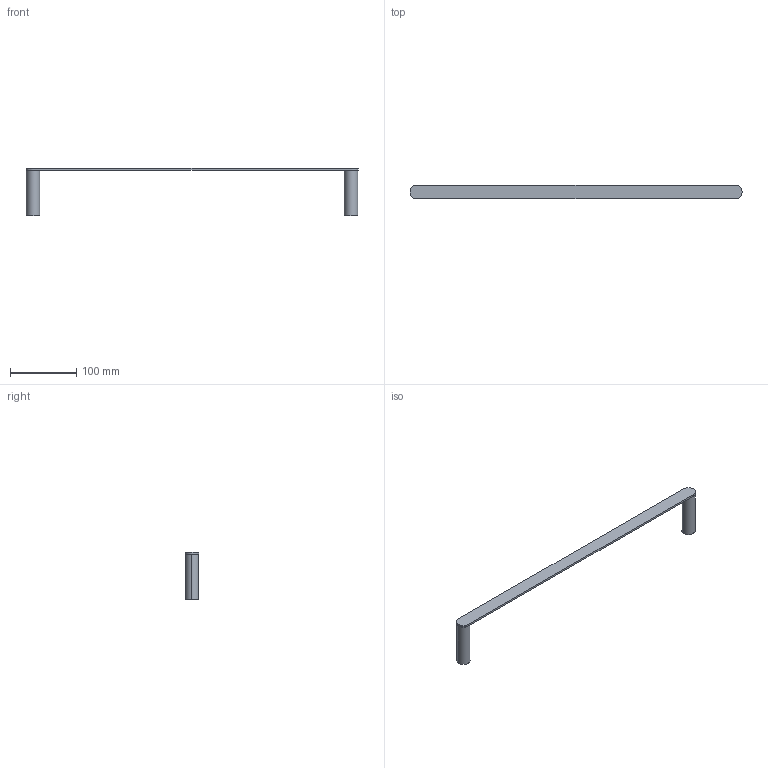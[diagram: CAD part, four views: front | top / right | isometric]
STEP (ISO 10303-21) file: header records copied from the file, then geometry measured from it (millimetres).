
FILE_DESCRIPTION((''),'2;1');
FILE_NAME('2400-501','2022-03-17T17:06:28',('Administrator'),(''),'CREO PARAMETRIC BY PTC INC, 2019471','CREO PARAMETRIC BY PTC INC, 2019471','');
FILE_SCHEMA(('CONFIG_CONTROL_DESIGN'));
Length unit declared in the file: millimetre
Products named in the file (1): 2400-501
Bounding box: 500 x 21 x 72 mm (x, y, z)
Volume: 43246.8 mm3; surface area: 39923.6 mm2
Topology: 1 solids, 1 shells, 18 faces, 36 edges, 24 vertices
Faces by surface type: cylinder 10, plane 8
Entity records: 518 total; most frequent: DIRECTION 92, CARTESIAN_POINT 78, ORIENTED_EDGE 72, AXIS2_PLACEMENT_3D 38, EDGE_CURVE 36, VERTEX_POINT 24, EDGE_LOOP 22, CIRCLE 20
